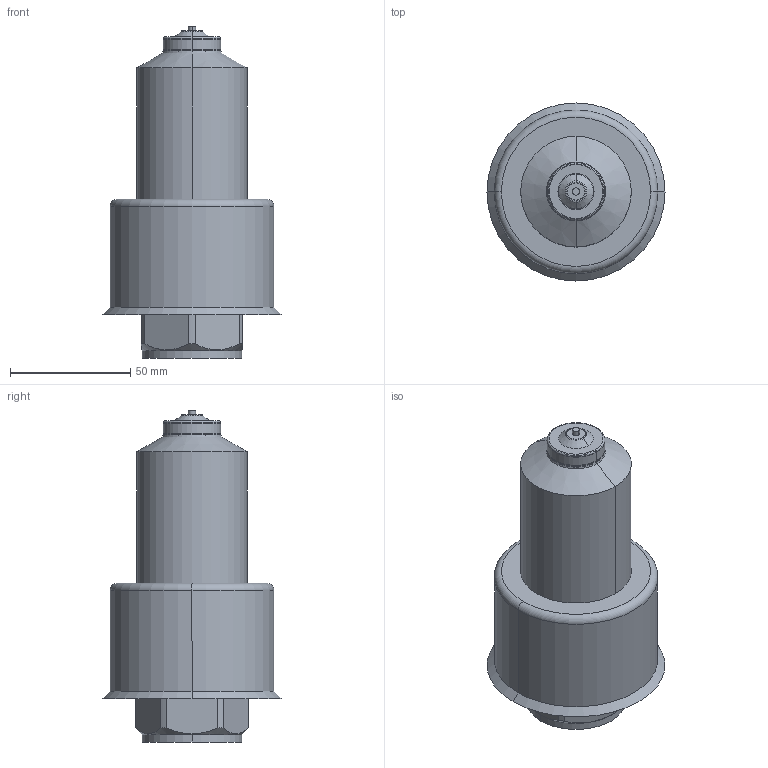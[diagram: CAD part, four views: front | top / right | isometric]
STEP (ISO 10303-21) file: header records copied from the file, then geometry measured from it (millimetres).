
FILE_DESCRIPTION (( 'STEP AP214' ), '1' );
FILE_NAME ('T16_OPEN_120_BAND.STEP', '2009-05-11T13:03:07', ( 'Synventive Molding Solutions' ), ( 'Synventive Molding Solutions' ), 'SwSTEP 2.0', 'SolidWorks 2008', '' );
FILE_SCHEMA (( 'AUTOMOTIVE_DESIGN' ));
Length unit declared in the file: millimetre
Products named in the file (1): T16_OPEN_120_BAND
Bounding box: 74 x 74 x 138 mm (x, y, z)
Volume: 458002 mm3; surface area: 52412.6 mm2
Topology: 4 solids, 4 shells, 247 faces, 614 edges, 382 vertices
Faces by surface type: cylinder 93, plane 89, torus 41, cone 20, sphere 2, bspline 2
Entity records: 10891 total; most frequent: CARTESIAN_POINT 2142, DIRECTION 1327, ORIENTED_EDGE 1224, EDGE_CURVE 612, AXIS2_PLACEMENT_3D 527, VERTEX_POINT 382, CIRCLE 281, LINE 273
